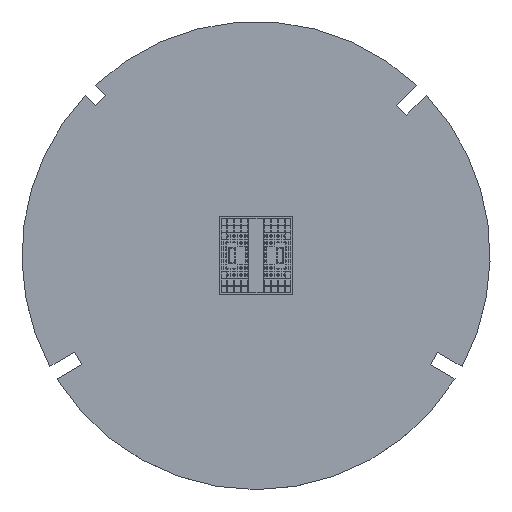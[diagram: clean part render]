
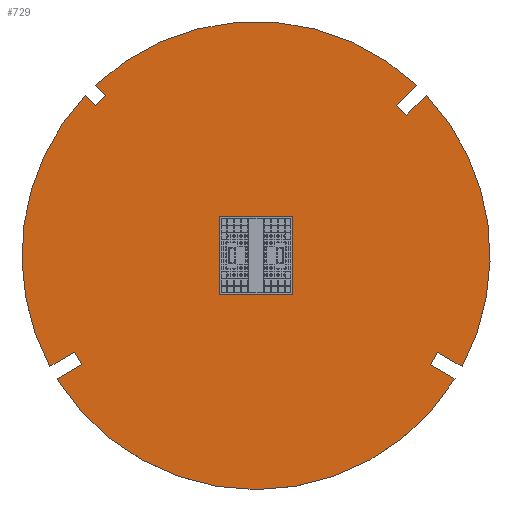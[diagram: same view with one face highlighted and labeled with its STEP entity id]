
A CAD part, top view. The second image highlights one B-rep face of the part: STEP entity #729.
In plain terms, the highlighted planar face has unit normal (0, 0, 1).
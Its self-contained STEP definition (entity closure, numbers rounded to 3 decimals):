
#208 = VERTEX_POINT('',#209);
#209 = CARTESIAN_POINT('',(11.316,12.008,0.8));
#215 = EDGE_CURVE('',#208,#216,#218,.T.);
#216 = VERTEX_POINT('',#217);
#217 = CARTESIAN_POINT('',(-11.308,12.015,0.8));
#218 = CIRCLE('',#219,16.499);
#219 = AXIS2_PLACEMENT_3D('',#220,#221,#222);
#220 = CARTESIAN_POINT('',(0.,0.001,
    0.8));
#221 = DIRECTION('',(0.,0.,1.));
#222 = DIRECTION('',(0.686,0.728,-0.));
#248 = EDGE_CURVE('',#216,#249,#251,.T.);
#249 = VERTEX_POINT('',#250);
#250 = CARTESIAN_POINT('',(-10.601,11.308,0.8));
#251 = LINE('',#252,#253);
#252 = CARTESIAN_POINT('',(-11.308,12.015,0.8));
#253 = VECTOR('',#254,1.);
#254 = DIRECTION('',(0.707,-0.707,0.));
#279 = EDGE_CURVE('',#249,#280,#282,.T.);
#280 = VERTEX_POINT('',#281);
#281 = CARTESIAN_POINT('',(-11.307,10.602,0.8));
#282 = LINE('',#283,#284);
#283 = CARTESIAN_POINT('',(-10.601,11.308,0.8));
#284 = VECTOR('',#285,1.);
#285 = DIRECTION('',(-0.707,-0.707,0.));
#310 = EDGE_CURVE('',#280,#311,#313,.T.);
#311 = VERTEX_POINT('',#312);
#312 = CARTESIAN_POINT('',(-12.028,11.295,0.8));
#313 = LINE('',#314,#315);
#314 = CARTESIAN_POINT('',(-11.307,10.602,0.8));
#315 = VECTOR('',#316,1.);
#316 = DIRECTION('',(-0.721,0.693,0.));
#341 = EDGE_CURVE('',#311,#342,#344,.T.);
#342 = VERTEX_POINT('',#343);
#343 = CARTESIAN_POINT('',(-14.529,-7.82,0.8));
#344 = CIRCLE('',#345,16.499);
#345 = AXIS2_PLACEMENT_3D('',#346,#347,#348);
#346 = CARTESIAN_POINT('',(-0.002,0.,
    0.8));
#347 = DIRECTION('',(0.,0.,1.));
#348 = DIRECTION('',(-0.729,0.685,0.));
#374 = EDGE_CURVE('',#342,#375,#377,.T.);
#375 = VERTEX_POINT('',#376);
#376 = CARTESIAN_POINT('',(-12.78,-6.807,0.8));
#377 = LINE('',#378,#379);
#378 = CARTESIAN_POINT('',(-14.529,-7.82,0.8));
#379 = VECTOR('',#380,1.);
#380 = DIRECTION('',(0.865,0.501,0.));
#405 = EDGE_CURVE('',#375,#406,#408,.T.);
#406 = VERTEX_POINT('',#407);
#407 = CARTESIAN_POINT('',(-12.28,-7.673,0.8));
#408 = LINE('',#409,#410);
#409 = CARTESIAN_POINT('',(-12.78,-6.807,0.8));
#410 = VECTOR('',#411,1.);
#411 = DIRECTION('',(0.5,-0.866,0.));
#436 = EDGE_CURVE('',#406,#437,#439,.T.);
#437 = VERTEX_POINT('',#438);
#438 = CARTESIAN_POINT('',(-14.023,-8.695,0.8));
#439 = LINE('',#440,#441);
#440 = CARTESIAN_POINT('',(-12.28,-7.673,0.8));
#441 = VECTOR('',#442,1.);
#442 = DIRECTION('',(-0.863,-0.506,0.));
#467 = EDGE_CURVE('',#437,#468,#470,.T.);
#468 = VERTEX_POINT('',#469);
#469 = CARTESIAN_POINT('',(14.028,-8.686,0.8));
#470 = CIRCLE('',#471,16.499);
#471 = AXIS2_PLACEMENT_3D('',#472,#473,#474);
#472 = CARTESIAN_POINT('',(0.,-0.001,
    0.8));
#473 = DIRECTION('',(0.,0.,1.));
#474 = DIRECTION('',(-0.85,-0.527,0.));
#500 = EDGE_CURVE('',#468,#501,#503,.T.);
#501 = VERTEX_POINT('',#502);
#502 = CARTESIAN_POINT('',(12.298,-7.689,0.8));
#503 = LINE('',#504,#505);
#504 = CARTESIAN_POINT('',(14.028,-8.686,0.8));
#505 = VECTOR('',#506,1.);
#506 = DIRECTION('',(-0.866,0.499,0.));
#531 = EDGE_CURVE('',#501,#532,#534,.T.);
#532 = VERTEX_POINT('',#533);
#533 = CARTESIAN_POINT('',(12.798,-6.823,0.8));
#534 = LINE('',#535,#536);
#535 = CARTESIAN_POINT('',(12.298,-7.689,0.8));
#536 = VECTOR('',#537,1.);
#537 = DIRECTION('',(0.5,0.866,0.));
#562 = EDGE_CURVE('',#532,#563,#565,.T.);
#563 = VERTEX_POINT('',#564);
#564 = CARTESIAN_POINT('',(14.528,-7.822,0.8));
#565 = LINE('',#566,#567);
#566 = CARTESIAN_POINT('',(12.798,-6.823,0.8));
#567 = VECTOR('',#568,1.);
#568 = DIRECTION('',(0.866,-0.5,0.));
#593 = EDGE_CURVE('',#563,#594,#596,.T.);
#594 = VERTEX_POINT('',#595);
#595 = CARTESIAN_POINT('',(12.015,11.308,0.8));
#596 = CIRCLE('',#597,16.497);
#597 = AXIS2_PLACEMENT_3D('',#598,#599,#600);
#598 = CARTESIAN_POINT('',(0.003,0.,
    0.8));
#599 = DIRECTION('',(0.,-0.,1.));
#600 = DIRECTION('',(0.88,-0.474,-0.));
#626 = EDGE_CURVE('',#594,#627,#629,.T.);
#627 = VERTEX_POINT('',#628);
#628 = CARTESIAN_POINT('',(10.614,9.906,0.8));
#629 = LINE('',#630,#631);
#630 = CARTESIAN_POINT('',(12.015,11.308,0.8));
#631 = VECTOR('',#632,1.);
#632 = DIRECTION('',(-0.707,-0.707,0.));
#657 = EDGE_CURVE('',#627,#658,#660,.T.);
#658 = VERTEX_POINT('',#659);
#659 = CARTESIAN_POINT('',(9.906,10.614,0.8));
#660 = LINE('',#661,#662);
#661 = CARTESIAN_POINT('',(10.614,9.906,0.8));
#662 = VECTOR('',#663,1.);
#663 = DIRECTION('',(-0.707,0.707,0.));
#688 = EDGE_CURVE('',#658,#208,#689,.T.);
#689 = LINE('',#690,#691);
#690 = CARTESIAN_POINT('',(9.906,10.614,0.8));
#691 = VECTOR('',#692,1.);
#692 = DIRECTION('',(0.711,0.703,0.));
#729 = ADVANCED_FACE('',(#730),#748,.T.);
#730 = FACE_BOUND('',#731,.T.);
#731 = EDGE_LOOP('',(#732,#733,#734,#735,#736,#737,#738,#739,#740,#741,
    #742,#743,#744,#745,#746,#747));
#732 = ORIENTED_EDGE('',*,*,#215,.T.);
#733 = ORIENTED_EDGE('',*,*,#248,.T.);
#734 = ORIENTED_EDGE('',*,*,#279,.T.);
#735 = ORIENTED_EDGE('',*,*,#310,.T.);
#736 = ORIENTED_EDGE('',*,*,#341,.T.);
#737 = ORIENTED_EDGE('',*,*,#374,.T.);
#738 = ORIENTED_EDGE('',*,*,#405,.T.);
#739 = ORIENTED_EDGE('',*,*,#436,.T.);
#740 = ORIENTED_EDGE('',*,*,#467,.T.);
#741 = ORIENTED_EDGE('',*,*,#500,.T.);
#742 = ORIENTED_EDGE('',*,*,#531,.T.);
#743 = ORIENTED_EDGE('',*,*,#562,.T.);
#744 = ORIENTED_EDGE('',*,*,#593,.T.);
#745 = ORIENTED_EDGE('',*,*,#626,.T.);
#746 = ORIENTED_EDGE('',*,*,#657,.T.);
#747 = ORIENTED_EDGE('',*,*,#688,.T.);
#748 = PLANE('',#749);
#749 = AXIS2_PLACEMENT_3D('',#750,#751,#752);
#750 = CARTESIAN_POINT('',(0.172,0.141,0.8));
#751 = DIRECTION('',(0.,0.,1.));
#752 = DIRECTION('',(1.,0.,-0.));
